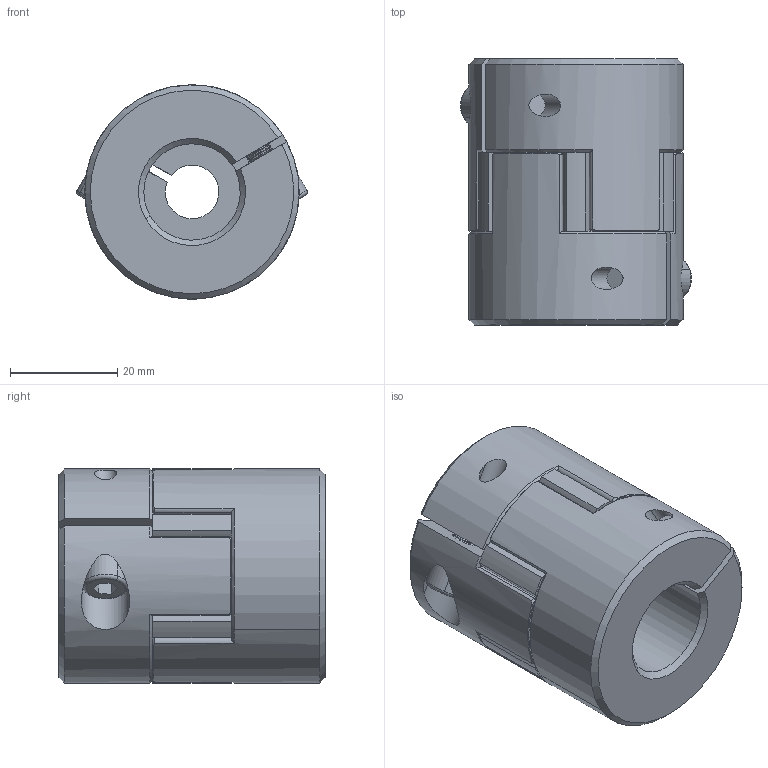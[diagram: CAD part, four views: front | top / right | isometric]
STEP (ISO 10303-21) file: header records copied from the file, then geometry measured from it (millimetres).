
FILE_DESCRIPTION (( 'STEP AP203' ), '1' );
FILE_NAME ('LF-B-D40L50-10-18.STEP', '2021-10-25T02:39:48', ( '' ), ( '' ), 'SwSTEP 2.0', 'SolidWorks 2018', '' );
FILE_SCHEMA (( 'CONFIG_CONTROL_DESIGN' ));
Length unit declared in the file: millimetre
Products named in the file (1): LF-B-D40L50-10-18
Bounding box: 43.11 x 49.7 x 40 mm (x, y, z)
Volume: 51104.4 mm3; surface area: 14601.7 mm2
Topology: 1 solids, 7 shells, 471 faces, 1117 edges, 662 vertices
Faces by surface type: cone 170, cylinder 169, plane 128, torus 4
Entity records: 13972 total; most frequent: CARTESIAN_POINT 2895, DIRECTION 2509, ORIENTED_EDGE 2226, EDGE_CURVE 1113, AXIS2_PLACEMENT_3D 1040, VERTEX_POINT 662, CIRCLE 568, EDGE_LOOP 487
